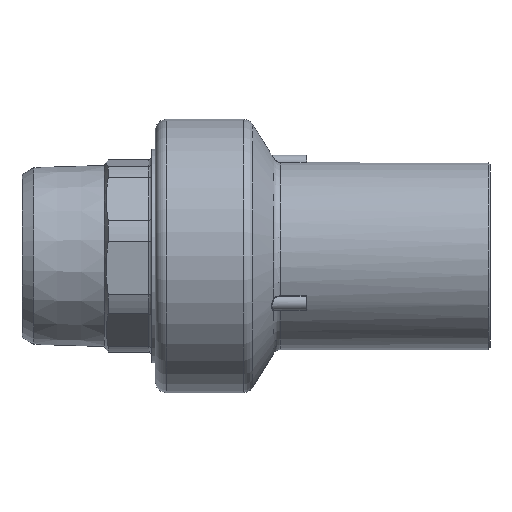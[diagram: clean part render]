
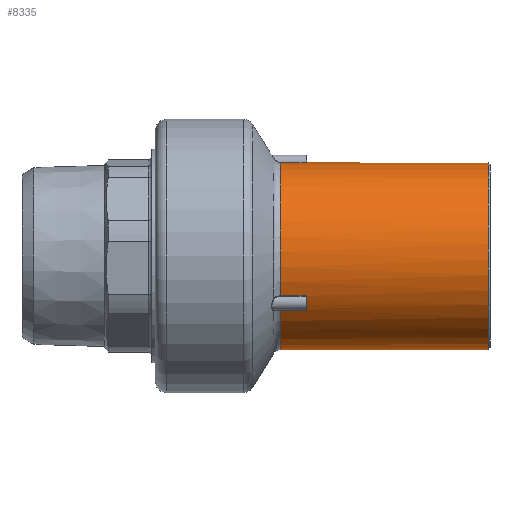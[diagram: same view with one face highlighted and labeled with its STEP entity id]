
A CAD part, front view. The second image highlights one B-rep face of the part: STEP entity #8335.
In plain terms, the highlighted cylindrical face has radius 25 mm (diameter 50 mm), a full revolution.
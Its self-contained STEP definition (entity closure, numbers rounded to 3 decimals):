
#219=LINE('',#17069,#455);
#220=LINE('',#17111,#456);
#221=LINE('',#17118,#457);
#222=LINE('',#17160,#458);
#223=LINE('',#17167,#459);
#224=LINE('',#17209,#460);
#455=VECTOR('',#12251,1000.);
#456=VECTOR('',#12264,1000.);
#457=VECTOR('',#12275,1000.);
#458=VECTOR('',#12288,1000.);
#459=VECTOR('',#12299,1000.);
#460=VECTOR('',#12312,1000.);
#883=B_SPLINE_CURVE_WITH_KNOTS('',3,(#17082,#17083,#17084,#17085),
 .UNSPECIFIED.,.F.,.F.,(4,4),(0.,0.),.UNSPECIFIED.);
#884=B_SPLINE_CURVE_WITH_KNOTS('',3,(#17104,#17105,#17106,#17107),
 .UNSPECIFIED.,.F.,.F.,(4,4),(0.,0.),.UNSPECIFIED.);
#885=B_SPLINE_CURVE_WITH_KNOTS('',3,(#17131,#17132,#17133,#17134),
 .UNSPECIFIED.,.F.,.F.,(4,4),(0.,0.),.UNSPECIFIED.);
#886=B_SPLINE_CURVE_WITH_KNOTS('',3,(#17153,#17154,#17155,#17156),
 .UNSPECIFIED.,.F.,.F.,(4,4),(0.,0.),.UNSPECIFIED.);
#887=B_SPLINE_CURVE_WITH_KNOTS('',3,(#17180,#17181,#17182,#17183),
 .UNSPECIFIED.,.F.,.F.,(4,4),(0.,0.),.UNSPECIFIED.);
#888=B_SPLINE_CURVE_WITH_KNOTS('',3,(#17202,#17203,#17204,#17205),
 .UNSPECIFIED.,.F.,.F.,(4,4),(0.,0.),.UNSPECIFIED.);
#1664=CYLINDRICAL_SURFACE('',#10825,25.);
#3036=ORIENTED_EDGE('',*,*,#5084,.F.);
#3037=ORIENTED_EDGE('',*,*,#5083,.T.);
#3038=ORIENTED_EDGE('',*,*,#5081,.F.);
#3039=ORIENTED_EDGE('',*,*,#5079,.T.);
#3040=ORIENTED_EDGE('',*,*,#5077,.F.);
#3041=ORIENTED_EDGE('',*,*,#5076,.T.);
#3042=ORIENTED_EDGE('',*,*,#5073,.F.);
#3043=ORIENTED_EDGE('',*,*,#5072,.T.);
#3044=ORIENTED_EDGE('',*,*,#5070,.F.);
#3045=ORIENTED_EDGE('',*,*,#5068,.T.);
#3046=ORIENTED_EDGE('',*,*,#5066,.F.);
#3047=ORIENTED_EDGE('',*,*,#5065,.T.);
#3048=ORIENTED_EDGE('',*,*,#5062,.F.);
#3049=ORIENTED_EDGE('',*,*,#5061,.T.);
#3050=ORIENTED_EDGE('',*,*,#5059,.F.);
#3051=ORIENTED_EDGE('',*,*,#5057,.T.);
#3052=ORIENTED_EDGE('',*,*,#5055,.F.);
#3053=ORIENTED_EDGE('',*,*,#5054,.T.);
#3054=ORIENTED_EDGE('',*,*,#5086,.T.);
#5054=EDGE_CURVE('',#6176,#6174,#219,.T.);
#5055=EDGE_CURVE('',#6176,#6177,#883,.T.);
#5057=EDGE_CURVE('',#6178,#6177,#6771,.F.);
#5059=EDGE_CURVE('',#6178,#6179,#884,.T.);
#5061=EDGE_CURVE('',#6149,#6179,#220,.F.);
#5062=EDGE_CURVE('',#6149,#6150,#6774,.T.);
#5065=EDGE_CURVE('',#6180,#6150,#221,.T.);
#5066=EDGE_CURVE('',#6180,#6181,#885,.T.);
#5068=EDGE_CURVE('',#6182,#6181,#6778,.F.);
#5070=EDGE_CURVE('',#6182,#6183,#886,.T.);
#5072=EDGE_CURVE('',#6161,#6183,#222,.F.);
#5073=EDGE_CURVE('',#6161,#6162,#6781,.T.);
#5076=EDGE_CURVE('',#6184,#6162,#223,.T.);
#5077=EDGE_CURVE('',#6184,#6185,#887,.T.);
#5079=EDGE_CURVE('',#6186,#6185,#6785,.F.);
#5081=EDGE_CURVE('',#6186,#6187,#888,.T.);
#5083=EDGE_CURVE('',#6173,#6187,#224,.F.);
#5084=EDGE_CURVE('',#6173,#6174,#6788,.T.);
#5086=EDGE_CURVE('',#6188,#6188,#6790,.F.);
#6149=VERTEX_POINT('',#16774);
#6150=VERTEX_POINT('',#16796);
#6161=VERTEX_POINT('',#16863);
#6162=VERTEX_POINT('',#16885);
#6173=VERTEX_POINT('',#16952);
#6174=VERTEX_POINT('',#16974);
#6176=VERTEX_POINT('',#17068);
#6177=VERTEX_POINT('',#17086);
#6178=VERTEX_POINT('',#17090);
#6179=VERTEX_POINT('',#17108);
#6180=VERTEX_POINT('',#17117);
#6181=VERTEX_POINT('',#17135);
#6182=VERTEX_POINT('',#17139);
#6183=VERTEX_POINT('',#17157);
#6184=VERTEX_POINT('',#17166);
#6185=VERTEX_POINT('',#17184);
#6186=VERTEX_POINT('',#17188);
#6187=VERTEX_POINT('',#17206);
#6188=VERTEX_POINT('',#17215);
#6771=CIRCLE('',#10796,25.);
#6774=CIRCLE('',#10801,25.);
#6778=CIRCLE('',#10807,25.);
#6781=CIRCLE('',#10812,25.);
#6785=CIRCLE('',#10818,25.);
#6788=CIRCLE('',#10823,25.);
#6790=CIRCLE('',#10826,25.);
#7205=EDGE_LOOP('',(#3036,#3037,#3038,#3039,#3040,#3041,#3042,#3043,#3044,
#3045,#3046,#3047,#3048,#3049,#3050,#3051,#3052,#3053));
#7206=EDGE_LOOP('',(#3054));
#7765=FACE_BOUND('',#7205,.T.);
#7766=FACE_BOUND('',#7206,.T.);
#8335=ADVANCED_FACE('',(#7765,#7766),#1664,.T.);
#10796=AXIS2_PLACEMENT_3D('',#17089,#12256,#12257);
#10801=AXIS2_PLACEMENT_3D('',#17113,#12267,#12268);
#10807=AXIS2_PLACEMENT_3D('',#17138,#12280,#12281);
#10812=AXIS2_PLACEMENT_3D('',#17162,#12291,#12292);
#10818=AXIS2_PLACEMENT_3D('',#17187,#12304,#12305);
#10823=AXIS2_PLACEMENT_3D('',#17211,#12315,#12316);
#10825=AXIS2_PLACEMENT_3D('',#17213,#12319,#12320);
#10826=AXIS2_PLACEMENT_3D('',#17214,#12321,#12322);
#12251=DIRECTION('',(-1.,0.,0.));
#12256=DIRECTION('',(-1.,0.,0.));
#12257=DIRECTION('',(0.,0.5,0.866));
#12264=DIRECTION('',(-1.,0.,0.));
#12267=DIRECTION('',(-1.,0.,0.));
#12268=DIRECTION('',(0.,0.,1.));
#12275=DIRECTION('',(-1.,0.,0.));
#12280=DIRECTION('',(-1.,0.,0.));
#12281=DIRECTION('',(0.,0.5,-0.866));
#12288=DIRECTION('',(-1.,0.,0.));
#12291=DIRECTION('',(-1.,0.,0.));
#12292=DIRECTION('',(0.,0.,1.));
#12299=DIRECTION('',(-1.,0.,0.));
#12304=DIRECTION('',(-1.,0.,0.));
#12305=DIRECTION('',(0.,-1.,0.));
#12312=DIRECTION('',(-1.,0.,0.));
#12315=DIRECTION('',(-1.,0.,0.));
#12316=DIRECTION('',(0.,0.,1.));
#12319=DIRECTION('',(-1.,0.,0.));
#12320=DIRECTION('',(0.,0.,1.));
#12321=DIRECTION('',(1.,0.,0.));
#12322=DIRECTION('',(0.,0.,-1.));
#16774=CARTESIAN_POINT('',(33.4,20.53,-14.266));
#16796=CARTESIAN_POINT('',(33.4,-20.53,-14.266));
#16863=CARTESIAN_POINT('',(33.4,-22.62,-10.647));
#16885=CARTESIAN_POINT('',(33.4,-2.09,24.913));
#16952=CARTESIAN_POINT('',(33.4,2.09,24.913));
#16974=CARTESIAN_POINT('',(33.4,22.62,-10.647));
#17068=CARTESIAN_POINT('',(40.3,22.62,-10.647));
#17069=CARTESIAN_POINT('',(-60.,22.62,-10.647));
#17082=CARTESIAN_POINT('',(40.3,22.62,-10.647));
#17083=CARTESIAN_POINT('',(40.406,22.62,-10.647));
#17084=CARTESIAN_POINT('',(40.5,22.579,-10.733));
#17085=CARTESIAN_POINT('',(40.5,22.533,-10.828));
#17086=CARTESIAN_POINT('',(40.5,22.533,-10.828));
#17089=CARTESIAN_POINT('',(40.5,0.,0.));
#17090=CARTESIAN_POINT('',(40.5,20.644,-14.1));
#17104=CARTESIAN_POINT('',(40.5,20.644,-14.1));
#17105=CARTESIAN_POINT('',(40.5,20.584,-14.188));
#17106=CARTESIAN_POINT('',(40.406,20.53,-14.266));
#17107=CARTESIAN_POINT('',(40.3,20.53,-14.266));
#17108=CARTESIAN_POINT('',(40.3,20.53,-14.266));
#17111=CARTESIAN_POINT('',(-60.,20.53,-14.266));
#17113=CARTESIAN_POINT('',(33.4,0.,0.));
#17117=CARTESIAN_POINT('',(40.3,-20.53,-14.266));
#17118=CARTESIAN_POINT('',(-60.,-20.53,-14.266));
#17131=CARTESIAN_POINT('',(40.3,-20.53,-14.266));
#17132=CARTESIAN_POINT('',(40.406,-20.53,-14.266));
#17133=CARTESIAN_POINT('',(40.5,-20.584,-14.188));
#17134=CARTESIAN_POINT('',(40.5,-20.644,-14.1));
#17135=CARTESIAN_POINT('',(40.5,-20.644,-14.1));
#17138=CARTESIAN_POINT('',(40.5,0.,0.));
#17139=CARTESIAN_POINT('',(40.5,-22.533,-10.828));
#17153=CARTESIAN_POINT('',(40.5,-22.533,-10.828));
#17154=CARTESIAN_POINT('',(40.5,-22.579,-10.733));
#17155=CARTESIAN_POINT('',(40.406,-22.62,-10.647));
#17156=CARTESIAN_POINT('',(40.3,-22.62,-10.647));
#17157=CARTESIAN_POINT('',(40.3,-22.62,-10.647));
#17160=CARTESIAN_POINT('',(-60.,-22.62,-10.647));
#17162=CARTESIAN_POINT('',(33.4,0.,0.));
#17166=CARTESIAN_POINT('',(40.3,-2.09,24.913));
#17167=CARTESIAN_POINT('',(-60.,-2.09,24.913));
#17180=CARTESIAN_POINT('',(40.3,-2.09,24.913));
#17181=CARTESIAN_POINT('',(40.406,-2.09,24.913));
#17182=CARTESIAN_POINT('',(40.5,-1.995,24.921));
#17183=CARTESIAN_POINT('',(40.5,-1.889,24.929));
#17184=CARTESIAN_POINT('',(40.5,-1.889,24.929));
#17187=CARTESIAN_POINT('',(40.5,0.,0.));
#17188=CARTESIAN_POINT('',(40.5,1.889,24.929));
#17202=CARTESIAN_POINT('',(40.5,1.889,24.929));
#17203=CARTESIAN_POINT('',(40.5,1.995,24.921));
#17204=CARTESIAN_POINT('',(40.406,2.09,24.913));
#17205=CARTESIAN_POINT('',(40.3,2.09,24.913));
#17206=CARTESIAN_POINT('',(40.3,2.09,24.913));
#17209=CARTESIAN_POINT('',(-60.,2.09,24.913));
#17211=CARTESIAN_POINT('',(33.4,0.,0.));
#17213=CARTESIAN_POINT('',(-60.,0.,0.));
#17214=CARTESIAN_POINT('',(88.9,0.,0.));
#17215=CARTESIAN_POINT('',(88.9,0.,-25.));
